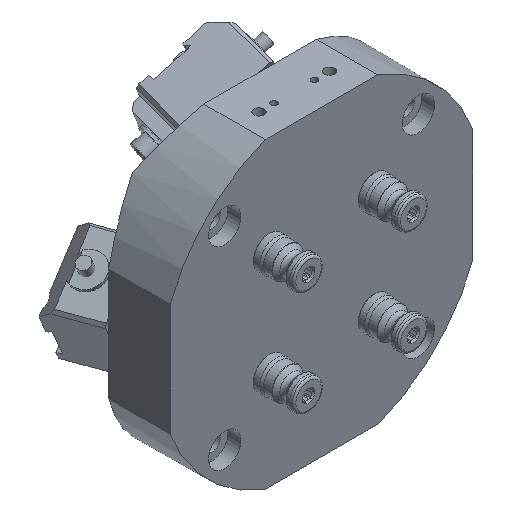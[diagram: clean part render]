
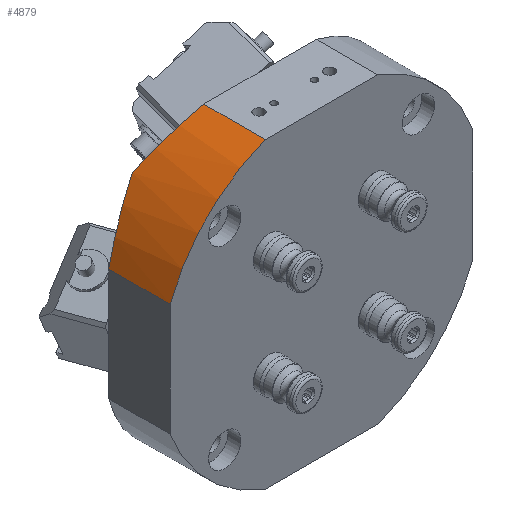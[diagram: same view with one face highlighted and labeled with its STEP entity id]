
A CAD part, isometric view. The second image highlights one B-rep face of the part: STEP entity #4879.
In plain terms, the highlighted cylindrical face has radius 80 mm (diameter 160 mm), a partial arc.
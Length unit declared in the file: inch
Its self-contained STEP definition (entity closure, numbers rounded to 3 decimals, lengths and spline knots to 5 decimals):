
#221 = CIRCLE ( 'NONE', #5324, 3.14961 ) ;
#397 = DIRECTION ( 'NONE',  ( 0., -1., 0. ) ) ;
#458 = VERTEX_POINT ( 'NONE', #4744 ) ;
#608 = ORIENTED_EDGE ( 'NONE', *, *, #4718, .T. ) ;
#639 = CARTESIAN_POINT ( 'NONE',  ( -2.54879, 1.07232, 1.90542 ) ) ;
#694 = ORIENTED_EDGE ( 'NONE', *, *, #2176, .F. ) ;
#713 = CARTESIAN_POINT ( 'NONE',  ( -1.09602, 0.92528, 2.95276 ) ) ;
#1013 = ORIENTED_EDGE ( 'NONE', *, *, #4840, .F. ) ;
#1187 = VECTOR ( 'NONE', #7051, 39.37008 ) ;
#1531 = FACE_OUTER_BOUND ( 'NONE', #3153, .T. ) ;
#1560 = DIRECTION ( 'NONE',  ( 0., 0., -1. ) ) ;
#1617 = CARTESIAN_POINT ( 'NONE',  ( -1.09602, 0.92528, 2.95276 ) ) ;
#1625 = CYLINDRICAL_SURFACE ( 'NONE', #6154, 3.14961 ) ;
#1691 = EDGE_CURVE ( 'NONE', #6805, #2812, #3715, .T. ) ;
#1826 = DIRECTION ( 'NONE',  ( 0., -1., 0. ) ) ;
#2176 = EDGE_CURVE ( 'NONE', #5169, #5648, #6298, .T. ) ;
#2263 = ORIENTED_EDGE ( 'NONE', *, *, #1691, .F. ) ;
#2518 = CARTESIAN_POINT ( 'NONE',  ( -1.90542, 1.07232, 2.54879 ) ) ;
#2569 = CARTESIAN_POINT ( 'NONE',  ( -2.79445, 0.9829, 1.52252 ) ) ;
#2576 = CARTESIAN_POINT ( 'NONE',  ( -1.09602, -0.27559, 2.95276 ) ) ;
#2693 = CARTESIAN_POINT ( 'NONE',  ( -2.95276, 1.2279, 1.09602 ) ) ;
#2812 = VERTEX_POINT ( 'NONE', #5319 ) ;
#2837 = DIRECTION ( 'NONE',  ( 0., -1., 0. ) ) ;
#3136 = CARTESIAN_POINT ( 'NONE',  ( -2.22711, 1.1894, 2.22711 ) ) ;
#3153 = EDGE_LOOP ( 'NONE', ( #1013, #2263, #608, #7878, #694 ) ) ;
#3715 =( BOUNDED_CURVE ( )  B_SPLINE_CURVE ( 3, ( #6233, #2569, #639, #3136 ),
 .UNSPECIFIED., .F., .F. ) 
 B_SPLINE_CURVE_WITH_KNOTS ( ( 4, 4 ),
 ( 0.35542, 0.7854 ),
 .UNSPECIFIED. ) 
 CURVE ( )  GEOMETRIC_REPRESENTATION_ITEM ( )  RATIONAL_B_SPLINE_CURVE ( ( 1., 0.985, 0.985, 1. ) ) 
 REPRESENTATION_ITEM ( '' )  );
#4291 =( BOUNDED_CURVE ( )  B_SPLINE_CURVE ( 3, ( #6223, #2518, #5004, #713 ),
 .UNSPECIFIED., .F., .F. ) 
 B_SPLINE_CURVE_WITH_KNOTS ( ( 4, 4 ),
 ( 5.49779, 5.92776 ),
 .UNSPECIFIED. ) 
 CURVE ( )  GEOMETRIC_REPRESENTATION_ITEM ( )  RATIONAL_B_SPLINE_CURVE ( ( 1., 0.985, 0.985, 1. ) ) 
 REPRESENTATION_ITEM ( '' )  );
#4629 = DIRECTION ( 'NONE',  ( 0., 0., -1. ) ) ;
#4718 = EDGE_CURVE ( 'NONE', #6805, #458, #6389, .T. ) ;
#4744 = CARTESIAN_POINT ( 'NONE',  ( -2.95276, -0.27559, 1.09602 ) ) ;
#4840 = EDGE_CURVE ( 'NONE', #2812, #5169, #4291, .T. ) ;
#4879 = ADVANCED_FACE ( 'NONE', ( #1531 ), #1625, .T. ) ;
#5004 = CARTESIAN_POINT ( 'NONE',  ( -1.52252, 0.9829, 2.79445 ) ) ;
#5169 = VERTEX_POINT ( 'NONE', #1617 ) ;
#5265 = CARTESIAN_POINT ( 'NONE',  ( -1.09602, 1.2279, 2.95276 ) ) ;
#5319 = CARTESIAN_POINT ( 'NONE',  ( -2.22711, 1.1894, 2.22711 ) ) ;
#5324 = AXIS2_PLACEMENT_3D ( 'NONE', #7150, #397, #1560 ) ;
#5648 = VERTEX_POINT ( 'NONE', #2576 ) ;
#6154 = AXIS2_PLACEMENT_3D ( 'NONE', #7653, #2837, #4629 ) ;
#6223 = CARTESIAN_POINT ( 'NONE',  ( -2.22711, 1.1894, 2.22711 ) ) ;
#6233 = CARTESIAN_POINT ( 'NONE',  ( -2.95276, 0.92528, 1.09602 ) ) ;
#6259 = CARTESIAN_POINT ( 'NONE',  ( -2.95276, 0.92528, 1.09602 ) ) ;
#6298 = LINE ( 'NONE', #5265, #7934 ) ;
#6389 = LINE ( 'NONE', #2693, #1187 ) ;
#6660 = EDGE_CURVE ( 'NONE', #5648, #458, #221, .T. ) ;
#6805 = VERTEX_POINT ( 'NONE', #6259 ) ;
#7051 = DIRECTION ( 'NONE',  ( 0., -1., 0. ) ) ;
#7150 = CARTESIAN_POINT ( 'NONE',  ( 0., -0.27559, 0. ) ) ;
#7653 = CARTESIAN_POINT ( 'NONE',  ( 0., 1.2279, 0. ) ) ;
#7878 = ORIENTED_EDGE ( 'NONE', *, *, #6660, .F. ) ;
#7934 = VECTOR ( 'NONE', #1826, 39.37008 ) ;
